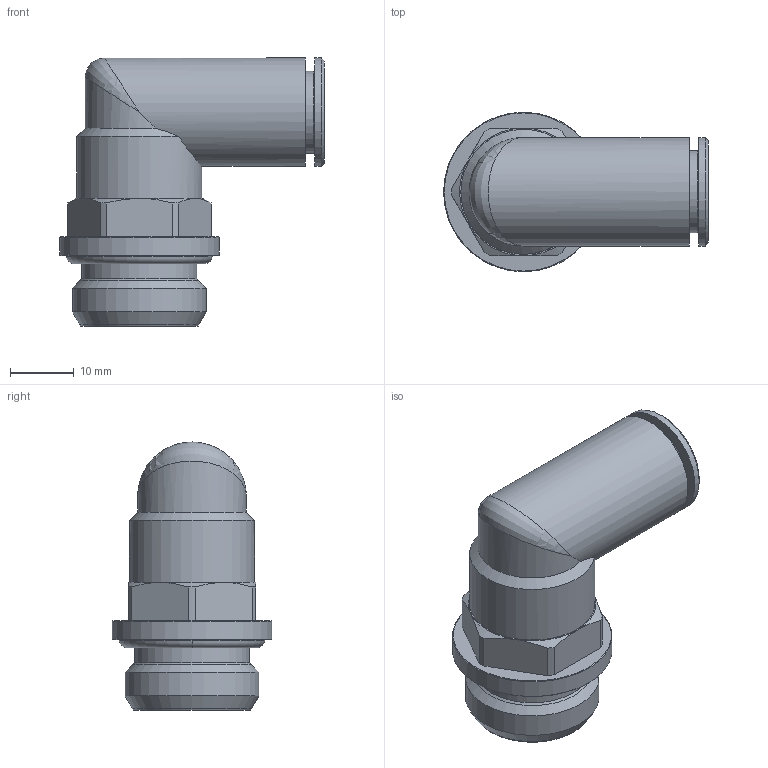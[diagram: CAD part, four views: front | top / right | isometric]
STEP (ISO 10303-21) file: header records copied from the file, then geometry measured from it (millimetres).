
FILE_DESCRIPTION(('Bauteilbeschreibung','HiCAD-Model','HiCAD-STEP-TRANSLATION','Bauteilbeschreibung'),'2;1');
FILE_NAME('B:/ABGLEICH/ZEICHNUNGEN/STEP FÜR INTERNET/STEP/202212_IPSO_022_12_1-2.STP','2011-09-19T14:33:06+00:00',('Konstrukteur'),('Konstrukteur Firma GmbH'),' HiCAD neXt 2008, Step 3.1.1401.2J ','HiCAD neXt 2008','confidential');
FILE_SCHEMA(('AUTOMOTIVE_DESIGN { 1 2 10303 214 0 1 1 1 }'));
Length unit declared in the file: millimetre
Products named in the file (7): A02212_IPSO_022_12_1_2; OR 17_12X2_62; DR12_5; R202210; A14608_GEW__12_1_2; A146080GEW00120102; G 1_2
Assembly tree (6 placements, depth 3):
  A02212_IPSO_022_12_1_2
    OR 17_12X2_62
    DR12_5
    R202210
    A14608_GEW__12_1_2
    A146080GEW00120102
      G 1_2
Bounding box: 41.5 x 25 x 42 mm (x, y, z)
Volume: 8761.6 mm3; surface area: 10410 mm2
Topology: 5 solids, 5 shells, 86 faces, 188 edges, 113 vertices
Faces by surface type: cylinder 29, cone 27, plane 20, torus 8, sphere 1, bspline 1
Full cylindrical faces by diameter (mm): 10 x1, 11 x1, 12.15 x1, 12.25 x1, 12.9 x1, 13 x1, 14.5 x2, 14.7 x1, 15.2 x1, 15.8 x2, 17 x4, 18 x1, 18.631 x2, 19.6 x1, 20.955 x1, 25 x1
Entity records: 3634 total; most frequent: CARTESIAN_POINT 1274, DIRECTION 388, ORIENTED_EDGE 250, AXIS2_PLACEMENT_3D 185, EDGE_LOOP 146, EDGE_CURVE 125, COLOUR_RGB 115, PRESENTATION_STYLE_ASSIGNMENT 115
